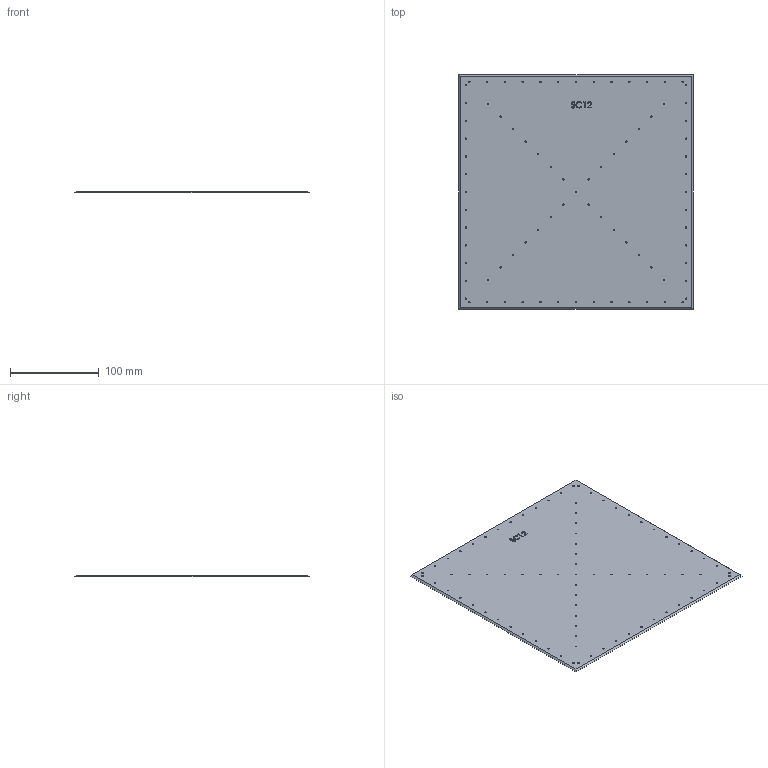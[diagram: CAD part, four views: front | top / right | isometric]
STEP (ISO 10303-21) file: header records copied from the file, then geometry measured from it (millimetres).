
FILE_DESCRIPTION (( 'STEP AP214' ), '1' );
FILE_NAME ('SC12.STEP', '2016-02-26T17:30:30', ( '' ), ( '' ), 'SwSTEP 2.0', 'SolidWorks 2012', '' );
FILE_SCHEMA (( 'AUTOMOTIVE_DESIGN' ));
Length unit declared in the file: millimetre
Products named in the file (1): SC12
Bounding box: 264 x 264 x 2 mm (x, y, z)
Volume: 136960.5 mm3; surface area: 140760.2 mm2
Topology: 1 solids, 1 shells, 218 faces, 636 edges, 424 vertices
Faces by surface type: cylinder 162, bspline 30, plane 26
Entity records: 9274 total; most frequent: CARTESIAN_POINT 3021, DIRECTION 1278, ORIENTED_EDGE 1272, EDGE_CURVE 636, AXIS2_PLACEMENT_3D 513, VERTEX_POINT 424, EDGE_LOOP 384, CIRCLE 324
